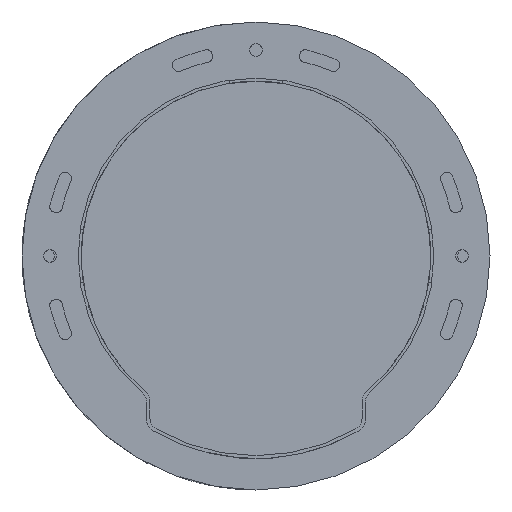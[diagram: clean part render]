
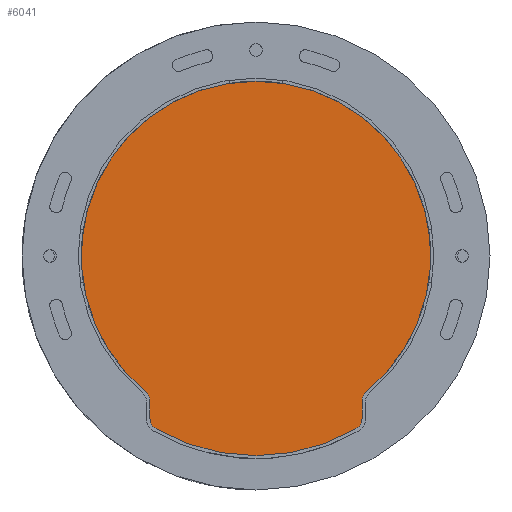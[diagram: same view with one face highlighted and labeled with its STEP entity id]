
A CAD part, front view. The second image highlights one B-rep face of the part: STEP entity #6041.
In plain terms, the highlighted planar face has unit normal (0, -1, 0).
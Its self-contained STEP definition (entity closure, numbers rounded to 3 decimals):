
#59 = DIRECTION ( 'NONE',  ( 0., 0., 1. ) ) ;
#72 = AXIS2_PLACEMENT_3D ( 'NONE', #2436, #4202, #3685 ) ;
#338 = CARTESIAN_POINT ( 'NONE',  ( 16., -3.5, -27.713 ) ) ;
#384 = VERTEX_POINT ( 'NONE', #5673 ) ;
#612 = VERTEX_POINT ( 'NONE', #3030 ) ;
#757 = PLANE ( 'NONE',  #770 ) ;
#770 = AXIS2_PLACEMENT_3D ( 'NONE', #6211, #800, #5613 ) ;
#772 = AXIS2_PLACEMENT_3D ( 'NONE', #7461, #6238, #7050 ) ;
#800 = DIRECTION ( 'NONE',  ( 0., 1., 0. ) ) ;
#878 = DIRECTION ( 'NONE',  ( 0., -1., 0. ) ) ;
#926 = EDGE_CURVE ( 'NONE', #7634, #384, #3446, .T. ) ;
#932 = CARTESIAN_POINT ( 'NONE',  ( -17.733, -3.5, -21.669 ) ) ;
#937 = ORIENTED_EDGE ( 'NONE', *, *, #926, .T. ) ;
#1063 = CARTESIAN_POINT ( 'NONE',  ( 17., -3.5, -23.216 ) ) ;
#1242 = ORIENTED_EDGE ( 'NONE', *, *, #7704, .T. ) ;
#1319 = CIRCLE ( 'NONE', #1580, 2. ) ;
#1580 = AXIS2_PLACEMENT_3D ( 'NONE', #3820, #6231, #4573 ) ;
#1646 = CARTESIAN_POINT ( 'NONE',  ( -17., -3.5, -25.981 ) ) ;
#1707 = ORIENTED_EDGE ( 'NONE', *, *, #3701, .T. ) ;
#1824 = CARTESIAN_POINT ( 'NONE',  ( 17., -3.5, -23.216 ) ) ;
#1934 = VERTEX_POINT ( 'NONE', #1063 ) ;
#2147 = DIRECTION ( 'NONE',  ( 0., 0., 1. ) ) ;
#2397 = DIRECTION ( 'NONE',  ( 0., 0., -1. ) ) ;
#2436 = CARTESIAN_POINT ( 'NONE',  ( 0., -3.5, 0. ) ) ;
#2542 = EDGE_CURVE ( 'NONE', #4591, #612, #3620, .T. ) ;
#2578 = VECTOR ( 'NONE', #6983, 1000. ) ;
#2778 = CARTESIAN_POINT ( 'NONE',  ( 17.733, -3.5, -21.669 ) ) ;
#2930 = ORIENTED_EDGE ( 'NONE', *, *, #7189, .T. ) ;
#2963 = CIRCLE ( 'NONE', #4724, 2. ) ;
#3030 = CARTESIAN_POINT ( 'NONE',  ( 0., -3.5, 28. ) ) ;
#3171 = CARTESIAN_POINT ( 'NONE',  ( -15., -3.5, -25.981 ) ) ;
#3304 = VERTEX_POINT ( 'NONE', #3882 ) ;
#3352 = DIRECTION ( 'NONE',  ( 0., 0., -1. ) ) ;
#3446 = CIRCLE ( 'NONE', #6972, 2. ) ;
#3607 = CARTESIAN_POINT ( 'NONE',  ( 0., -3.5, 0. ) ) ;
#3620 = CIRCLE ( 'NONE', #5894, 28. ) ;
#3670 = LINE ( 'NONE', #1824, #4685 ) ;
#3685 = DIRECTION ( 'NONE',  ( 0., 0., 1. ) ) ;
#3701 = EDGE_CURVE ( 'NONE', #3304, #1934, #3670, .T. ) ;
#3743 = EDGE_CURVE ( 'NONE', #1934, #4591, #5188, .T. ) ;
#3820 = CARTESIAN_POINT ( 'NONE',  ( -19., -3.5, -23.216 ) ) ;
#3882 = CARTESIAN_POINT ( 'NONE',  ( 17., -3.5, -25.981 ) ) ;
#3986 = CIRCLE ( 'NONE', #72, 28. ) ;
#4138 = CARTESIAN_POINT ( 'NONE',  ( 15., -3.5, -25.981 ) ) ;
#4202 = DIRECTION ( 'NONE',  ( 0., -1., 0. ) ) ;
#4216 = ORIENTED_EDGE ( 'NONE', *, *, #2542, .T. ) ;
#4242 = ORIENTED_EDGE ( 'NONE', *, *, #5046, .T. ) ;
#4244 = VERTEX_POINT ( 'NONE', #338 ) ;
#4573 = DIRECTION ( 'NONE',  ( 0., 0., -1. ) ) ;
#4582 = LINE ( 'NONE', #5801, #2578 ) ;
#4591 = VERTEX_POINT ( 'NONE', #2778 ) ;
#4675 = CARTESIAN_POINT ( 'NONE',  ( -17., -3.5, -23.216 ) ) ;
#4685 = VECTOR ( 'NONE', #6783, 1000. ) ;
#4724 = AXIS2_PLACEMENT_3D ( 'NONE', #4138, #4801, #3352 ) ;
#4792 = DIRECTION ( 'NONE',  ( 0., -1., 0. ) ) ;
#4801 = DIRECTION ( 'NONE',  ( 0., -1., 0. ) ) ;
#5046 = EDGE_CURVE ( 'NONE', #5765, #7634, #4582, .T. ) ;
#5137 = CARTESIAN_POINT ( 'NONE',  ( 0., -3.5, 0. ) ) ;
#5188 = CIRCLE ( 'NONE', #772, 2. ) ;
#5284 = EDGE_LOOP ( 'NONE', ( #937, #6815, #5984, #1707, #5431, #4216, #1242, #2930, #4242 ) ) ;
#5431 = ORIENTED_EDGE ( 'NONE', *, *, #3743, .T. ) ;
#5576 = DIRECTION ( 'NONE',  ( 0., -1., 0. ) ) ;
#5613 = DIRECTION ( 'NONE',  ( 0., 0., 1. ) ) ;
#5673 = CARTESIAN_POINT ( 'NONE',  ( -16., -3.5, -27.713 ) ) ;
#5765 = VERTEX_POINT ( 'NONE', #4675 ) ;
#5801 = CARTESIAN_POINT ( 'NONE',  ( -17., -3.5, -23.216 ) ) ;
#5867 = CIRCLE ( 'NONE', #5992, 32. ) ;
#5894 = AXIS2_PLACEMENT_3D ( 'NONE', #5137, #878, #2147 ) ;
#5984 = ORIENTED_EDGE ( 'NONE', *, *, #6541, .T. ) ;
#5992 = AXIS2_PLACEMENT_3D ( 'NONE', #3607, #4792, #2397 ) ;
#6041 = ADVANCED_FACE ( 'NONE', ( #6173 ), #757, .F. ) ;
#6173 = FACE_OUTER_BOUND ( 'NONE', #5284, .T. ) ;
#6211 = CARTESIAN_POINT ( 'NONE',  ( -15., -3.5, -25.981 ) ) ;
#6231 = DIRECTION ( 'NONE',  ( 0., 1., 0. ) ) ;
#6238 = DIRECTION ( 'NONE',  ( 0., 1., 0. ) ) ;
#6541 = EDGE_CURVE ( 'NONE', #4244, #3304, #2963, .T. ) ;
#6783 = DIRECTION ( 'NONE',  ( 0., 0., 1. ) ) ;
#6815 = ORIENTED_EDGE ( 'NONE', *, *, #7136, .T. ) ;
#6892 = VERTEX_POINT ( 'NONE', #932 ) ;
#6972 = AXIS2_PLACEMENT_3D ( 'NONE', #3171, #5576, #59 ) ;
#6983 = DIRECTION ( 'NONE',  ( 0., 0., -1. ) ) ;
#7050 = DIRECTION ( 'NONE',  ( 0., 0., 1. ) ) ;
#7136 = EDGE_CURVE ( 'NONE', #384, #4244, #5867, .T. ) ;
#7189 = EDGE_CURVE ( 'NONE', #6892, #5765, #1319, .T. ) ;
#7461 = CARTESIAN_POINT ( 'NONE',  ( 19., -3.5, -23.216 ) ) ;
#7634 = VERTEX_POINT ( 'NONE', #1646 ) ;
#7704 = EDGE_CURVE ( 'NONE', #612, #6892, #3986, .T. ) ;
